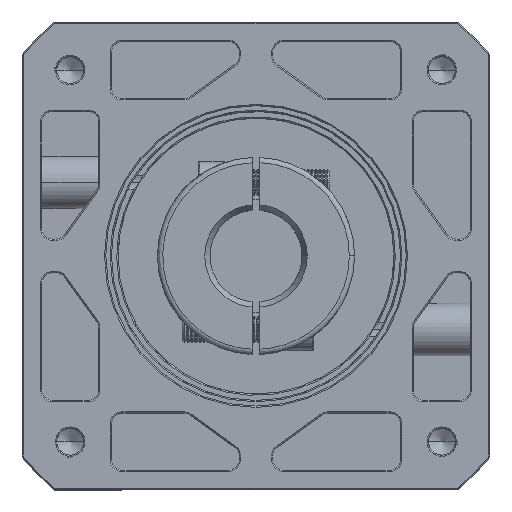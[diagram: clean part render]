
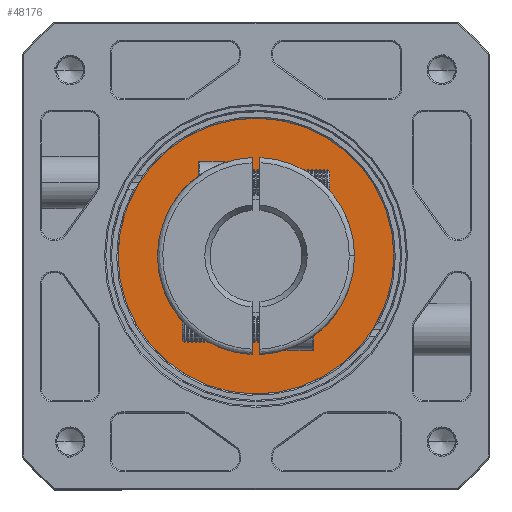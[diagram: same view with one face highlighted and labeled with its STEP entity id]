
A CAD part, top view. The second image highlights one B-rep face of the part: STEP entity #48176.
In plain terms, the highlighted planar face has unit normal (0, 0, 1).
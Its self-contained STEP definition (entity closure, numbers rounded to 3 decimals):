
#6912 = PLANE ( 'NONE',  #129112 ) ;
#7853 = AXIS2_PLACEMENT_3D ( 'NONE', #53068, #8456, #128941 ) ;
#8456 = DIRECTION ( 'NONE',  ( 0., 0., -1. ) ) ;
#11232 = CIRCLE ( 'NONE', #7853, 52.5 ) ;
#11316 = EDGE_CURVE ( 'NONE', #41010, #130440, #74839, .T. ) ;
#14268 = DIRECTION ( 'NONE',  ( 0., 1., 0. ) ) ;
#22867 = DIRECTION ( 'NONE',  ( 0., 0., -1. ) ) ;
#24726 = CARTESIAN_POINT ( 'NONE',  ( -122.251, 93.655, 13.626 ) ) ;
#29848 = DIRECTION ( 'NONE',  ( 0., 0., -1. ) ) ;
#31262 = EDGE_LOOP ( 'NONE', ( #49363, #133506 ) ) ;
#32011 = DIRECTION ( 'NONE',  ( 0., 0., -1. ) ) ;
#35129 = VERTEX_POINT ( 'NONE', #69867 ) ;
#39867 = CARTESIAN_POINT ( 'NONE',  ( -122.251, 93.655, 13.626 ) ) ;
#41010 = VERTEX_POINT ( 'NONE', #73318 ) ;
#41960 = CARTESIAN_POINT ( 'NONE',  ( -122.251, 124.155, 13.626 ) ) ;
#45206 = DIRECTION ( 'NONE',  ( -1., 0., 0. ) ) ;
#48176 = ADVANCED_FACE ( 'NONE', ( #54120, #133776 ), #6912, .F. ) ;
#49363 = ORIENTED_EDGE ( 'NONE', *, *, #70148, .F. ) ;
#49452 = AXIS2_PLACEMENT_3D ( 'NONE', #24726, #22867, #45206 ) ;
#53068 = CARTESIAN_POINT ( 'NONE',  ( -122.251, 93.655, 13.626 ) ) ;
#54120 = FACE_BOUND ( 'NONE', #66646, .T. ) ;
#54906 = CARTESIAN_POINT ( 'NONE',  ( -69.751, 93.655, 13.626 ) ) ;
#55602 = VERTEX_POINT ( 'NONE', #54906 ) ;
#66646 = EDGE_LOOP ( 'NONE', ( #116064, #72404 ) ) ;
#69867 = CARTESIAN_POINT ( 'NONE',  ( -174.751, 93.655, 13.626 ) ) ;
#70148 = EDGE_CURVE ( 'NONE', #35129, #55602, #11232, .T. ) ;
#72404 = ORIENTED_EDGE ( 'NONE', *, *, #11316, .T. ) ;
#72609 = DIRECTION ( 'NONE',  ( 0., 1., 0. ) ) ;
#73318 = CARTESIAN_POINT ( 'NONE',  ( -122.251, 63.155, 13.626 ) ) ;
#74839 = CIRCLE ( 'NONE', #111894, 30.5 ) ;
#80562 = EDGE_CURVE ( 'NONE', #55602, #35129, #137315, .T. ) ;
#85261 = CARTESIAN_POINT ( 'NONE',  ( -122.251, 93.655, 13.626 ) ) ;
#86672 = DIRECTION ( 'NONE',  ( -1., 0., 0. ) ) ;
#110290 = CARTESIAN_POINT ( 'NONE',  ( -122.251, 93.655, 13.626 ) ) ;
#111894 = AXIS2_PLACEMENT_3D ( 'NONE', #110290, #120642, #14268 ) ;
#116064 = ORIENTED_EDGE ( 'NONE', *, *, #118879, .T. ) ;
#118879 = EDGE_CURVE ( 'NONE', #130440, #41010, #125116, .T. ) ;
#120642 = DIRECTION ( 'NONE',  ( 0., 0., -1. ) ) ;
#125116 = CIRCLE ( 'NONE', #129079, 30.5 ) ;
#128941 = DIRECTION ( 'NONE',  ( -1., 0., 0. ) ) ;
#129079 = AXIS2_PLACEMENT_3D ( 'NONE', #39867, #29848, #72609 ) ;
#129112 = AXIS2_PLACEMENT_3D ( 'NONE', #85261, #32011, #86672 ) ;
#130440 = VERTEX_POINT ( 'NONE', #41960 ) ;
#133506 = ORIENTED_EDGE ( 'NONE', *, *, #80562, .F. ) ;
#133776 = FACE_OUTER_BOUND ( 'NONE', #31262, .T. ) ;
#137315 = CIRCLE ( 'NONE', #49452, 52.5 ) ;
